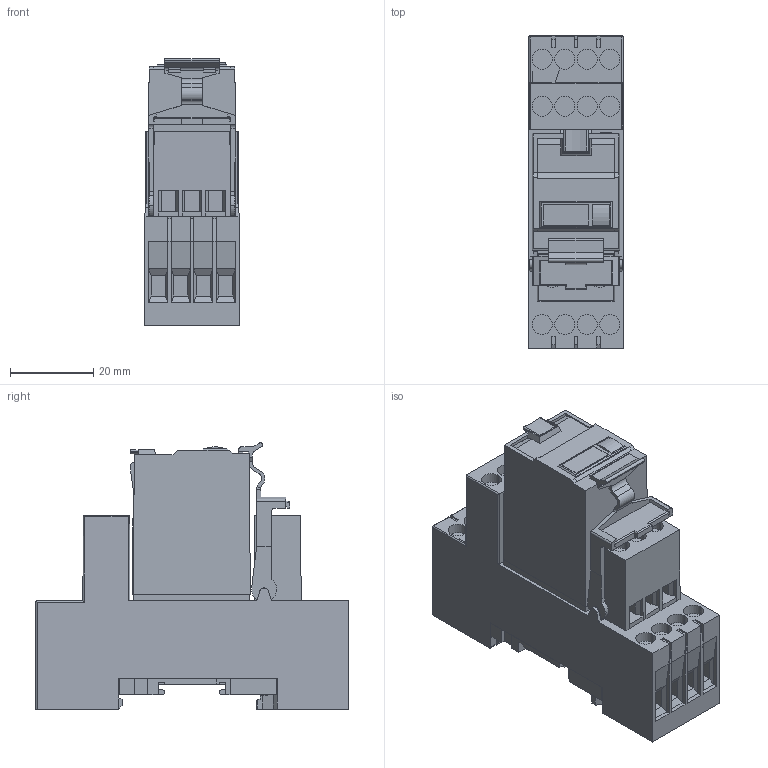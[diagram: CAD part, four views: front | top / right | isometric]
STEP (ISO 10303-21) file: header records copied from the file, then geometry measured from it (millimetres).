
FILE_DESCRIPTION (( 'STEP AP214' ), '1' );
FILE_NAME ('C9_plus_S9-M.STEP', '2024-04-04T07:56:44', ( '' ), ( '' ), 'SwSTEP 2.0', 'SolidWorks 2022', '' );
FILE_SCHEMA (( 'AUTOMOTIVE_DESIGN' ));
Length unit declared in the file: millimetre
Products named in the file (1): C9_plus_S9-M
Bounding box: 22.8 x 75 x 63.95 mm (x, y, z)
Volume: 66493.6 mm3; surface area: 22441.5 mm2
Topology: 1 solids, 24 shells, 1352 faces, 3696 edges, 2368 vertices
Faces by surface type: plane 1179, cylinder 166, bspline 4, sphere 2, torus 1
Entity records: 57301 total; most frequent: CARTESIAN_POINT 8304, ORIENTED_EDGE 7384, DIRECTION 6467, EDGE_CURVE 3692, LINE 3373, VECTOR 3373, VERTEX_POINT 2366, AXIS2_PLACEMENT_3D 1547
